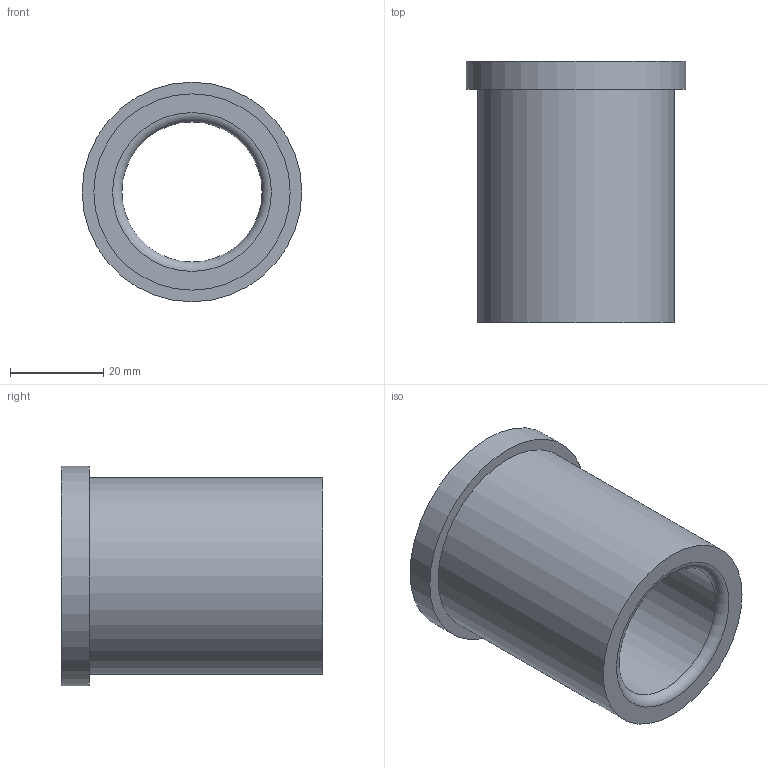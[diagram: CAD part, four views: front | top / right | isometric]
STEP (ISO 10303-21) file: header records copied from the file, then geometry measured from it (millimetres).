
FILE_DESCRIPTION(/* description */ ('STEP AP214'),/* implementation_level */ '2;1');
FILE_NAME(/* name */ '03_12_17942',/* time_stamp */ '2023-06-15T11:35:38+02:00',/* author */ ('License CC BY-ND 4.0'),/* organization */ ('CADENAS'),/* preprocessor_version */ 'ST-DEVELOPER v19.3',/* originating_system */ 'PARTsolutions',/* authorisation */ ' ');
FILE_SCHEMA (('AUTOMOTIVE_DESIGN {1 0 10303 214 3 1 1}'));
Length unit declared in the file: millimetre
Products named in the file (1): VA_Bushing_17942
Bounding box: 47 x 56 x 47 mm (x, y, z)
Volume: 39609.6 mm3; surface area: 14678.6 mm2
Topology: 1 solids, 1 shells, 10 faces, 16 edges, 10 vertices
Faces by surface type: cylinder 4, plane 4, torus 2
Full cylindrical faces by diameter (mm): 30 x1, 30.6 x1, 42 x1, 47 x1
Entity records: 302 total; most frequent: DIRECTION 42, CARTESIAN_POINT 31, AXIS2_PLACEMENT_3D 21, ORIENTED_EDGE 20, EDGE_LOOP 20, FACE_BOUND 20, EDGE_CURVE 10, VERTEX_POINT 10
